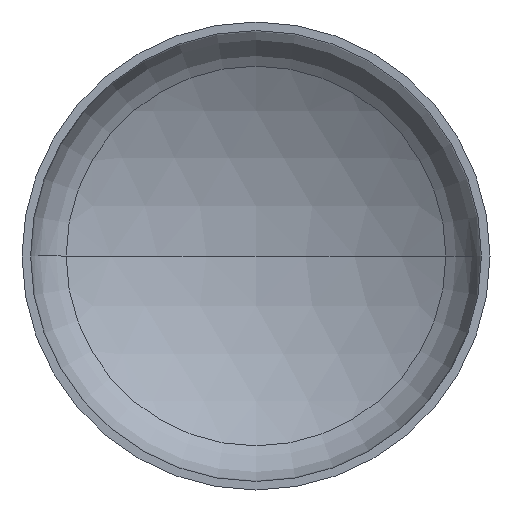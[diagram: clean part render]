
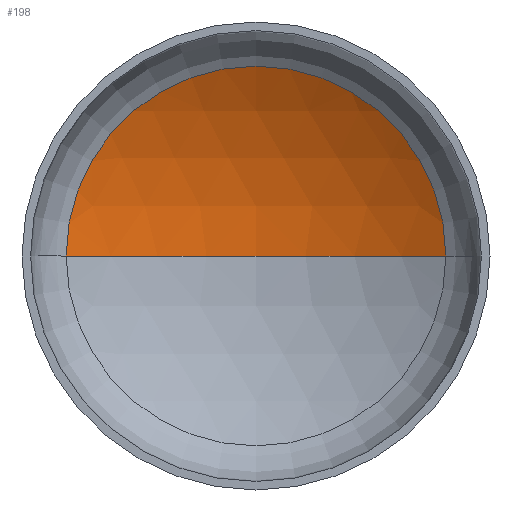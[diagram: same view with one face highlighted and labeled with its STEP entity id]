
A CAD part, front view. The second image highlights one B-rep face of the part: STEP entity #198.
In plain terms, the highlighted spherical face has radius 960 mm.
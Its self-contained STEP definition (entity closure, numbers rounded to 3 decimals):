
#11 = EDGE_LOOP ( 'NONE', ( #99, #52, #33 ) ) ;
#13 = VERTEX_POINT ( 'NONE', #262 ) ;
#33 = ORIENTED_EDGE ( 'NONE', *, *, #157, .T. ) ;
#39 = AXIS2_PLACEMENT_3D ( 'NONE', #291, #196, #194 ) ;
#50 = AXIS2_PLACEMENT_3D ( 'NONE', #271, #270, #266 ) ;
#51 = AXIS2_PLACEMENT_3D ( 'NONE', #217, #219, #235 ) ;
#52 = ORIENTED_EDGE ( 'NONE', *, *, #161, .T. ) ;
#56 = AXIS2_PLACEMENT_3D ( 'NONE', #243, #376, #398 ) ;
#99 = ORIENTED_EDGE ( 'NONE', *, *, #172, .F. ) ;
#121 = VERTEX_POINT ( 'NONE', #316 ) ;
#123 = VERTEX_POINT ( 'NONE', #326 ) ;
#157 = EDGE_CURVE ( 'NONE', #121, #13, #384, .T. ) ;
#161 = EDGE_CURVE ( 'NONE', #123, #121, #264, .T. ) ;
#172 = EDGE_CURVE ( 'NONE', #123, #13, #276, .T. ) ;
#194 = DIRECTION ( 'NONE',  ( -1., 0., 0. ) ) ;
#196 = DIRECTION ( 'NONE',  ( 0., 0., -1. ) ) ;
#198 = ADVANCED_FACE ( 'NONE', ( #374 ), #257, .F. ) ;
#217 = CARTESIAN_POINT ( 'NONE',  ( 0., -597.964, 0. ) ) ;
#219 = DIRECTION ( 'NONE',  ( 0., 0., -1. ) ) ;
#235 = DIRECTION ( 'NONE',  ( -1., 0., 0. ) ) ;
#243 = CARTESIAN_POINT ( 'NONE',  ( 0., 229.449, 0. ) ) ;
#257 = SPHERICAL_SURFACE ( 'NONE', #39, 960. ) ;
#262 = CARTESIAN_POINT ( 'NONE',  ( -486.813, 229.449, 0. ) ) ;
#264 = CIRCLE ( 'NONE', #51, 960. ) ;
#266 = DIRECTION ( 'NONE',  ( 1., 0., 0. ) ) ;
#270 = DIRECTION ( 'NONE',  ( 0., 0., 1. ) ) ;
#271 = CARTESIAN_POINT ( 'NONE',  ( 0., -597.964, 0. ) ) ;
#276 = CIRCLE ( 'NONE', #50, 960. ) ;
#291 = CARTESIAN_POINT ( 'NONE',  ( 0., -597.964, 0. ) ) ;
#316 = CARTESIAN_POINT ( 'NONE',  ( 486.813, 229.449, 0. ) ) ;
#326 = CARTESIAN_POINT ( 'NONE',  ( 0., 362.036, 0. ) ) ;
#374 = FACE_OUTER_BOUND ( 'NONE', #11, .T. ) ;
#376 = DIRECTION ( 'NONE',  ( 0., -1., 0. ) ) ;
#384 = CIRCLE ( 'NONE', #56, 486.813 ) ;
#398 = DIRECTION ( 'NONE',  ( 1., 0., 0. ) ) ;
